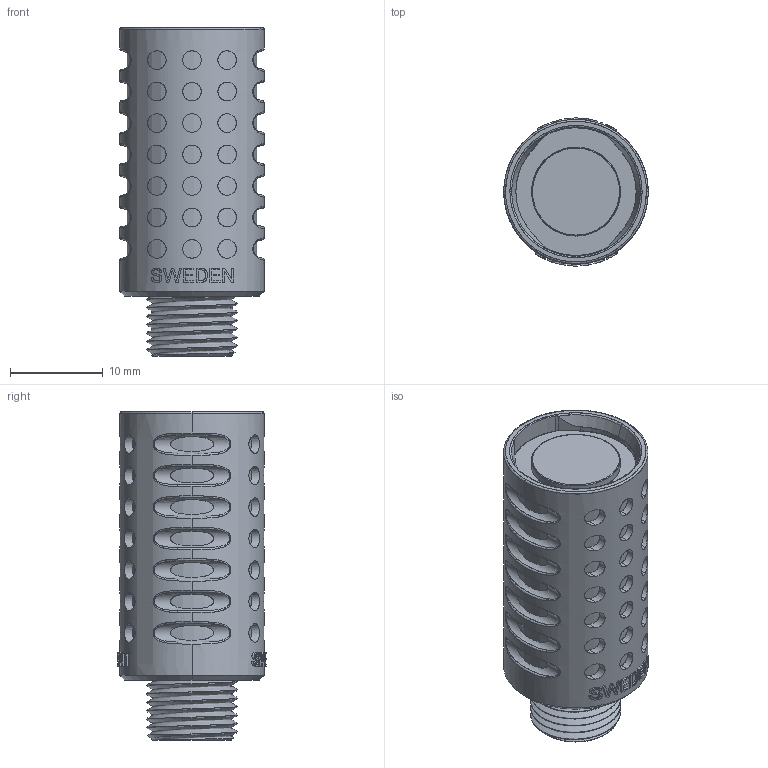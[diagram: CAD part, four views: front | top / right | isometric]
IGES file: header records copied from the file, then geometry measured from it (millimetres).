
Start section: SolidWorks IGES file using analytic representation for surfaces
Global section: file name: C:\PDMVault\Libraries\IGES\SIS-02.IGS; native system: SolidWorks 2021; preprocessor: SolidWorks 2021; author: P.Svensson; date: 220609.153305; units: millimetre
Bounding box: 15.6 x 16 x 35.5 mm (x, y, z)
Surface area: 7006.5 mm2 (no closed solid volume)
Topology: 0 solids, 0 shells, 394 faces, 9359 edges, 9355 vertices
Faces by surface type: bspline 218, revolution 176
